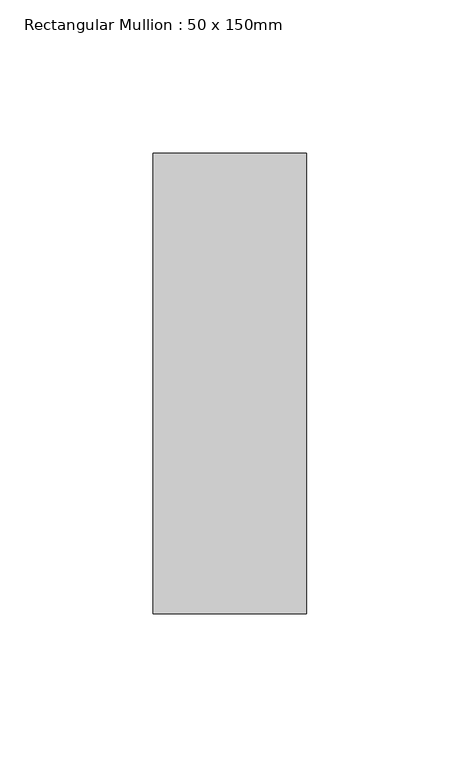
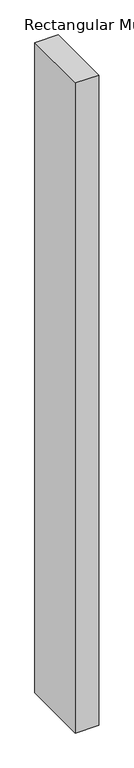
"""IFC4 building model written with IfcOpenShell, lengths in millimetres: member geometry, Rectangular Mullion : 50 x 150mm."""

import ifcopenshell
import ifcopenshell.guid

model = None  # the IFC model being written
_history = None  # IfcOwnerHistory: only IFC2X3 demands one
_inside = {}  # id of a spatial element -> (the spatial element, [elements in it])
_under = {}  # id of a project, library or spatial element -> (it, [spatial elements below it])
_declared = {}  # id of a project -> (the project, [libraries it declares])
_typed = {}  # id of a type object -> (the type object, [elements of that type])
_made_of = {}  # id of a material, layer set ... -> (it, [elements and type objects made of it])


def new_model(schema):
    """Start an empty IFC model of exactly this schema.

    Asked for "IFC4X3", IfcOpenShell would pick the latest addendum, in which some entities
    have other attributes; the version numbers below select the first issue.
    IFC2X3 requires an IfcOwnerHistory on every rooted entity: one is made here for all.
    """
    global model, _history
    if schema == "IFC4X3":
        model = ifcopenshell.file(schema_version=(4, 3, 0, 0))
    else:
        model = ifcopenshell.file(schema=schema)
    _inside.clear()
    _under.clear()
    _declared.clear()
    _typed.clear()
    _made_of.clear()
    _history = None
    if model.schema == "IFC2X3":
        org = make("IfcOrganization", Name="unknown")
        user = make(
            "IfcPersonAndOrganization",
            ThePerson=make("IfcPerson", FamilyName="unknown"),
            TheOrganization=org,
        )
        app = make(
            "IfcApplication",
            ApplicationDeveloper=org,
            Version="unknown",
            ApplicationFullName="unknown",
            ApplicationIdentifier="unknown",
        )
        _history = make(
            "IfcOwnerHistory",
            OwningUser=user,
            OwningApplication=app,
            ChangeAction="ADDED",
            CreationDate=0,
        )
    return model


def make(cls, **values):
    """One entity of the class cls with the attributes given. An attribute that is None is left unset."""
    return model.create_entity(
        cls, **{name: value for name, value in values.items() if value is not None}
    )


def rooted(cls, **values):
    """An entity with a GlobalId (a new one), such as an element, a storey or a relation."""
    return make(cls, GlobalId=ifcopenshell.guid.new(), OwnerHistory=_history, **values)


def si_unit(unit_type, name, prefix=None):
    """IfcSIUnit, for example si_unit("LENGTHUNIT", "METRE", prefix="MILLI")."""
    return make("IfcSIUnit", UnitType=unit_type, Prefix=prefix, Name=name)


def assignment(units):
    """IfcUnitAssignment: the units of a project."""
    return None if units is None else make("IfcUnitAssignment", Units=units)


def point(xyz):
    """IfcCartesianPoint."""
    return None if xyz is None else make("IfcCartesianPoint", Coordinates=xyz)


def direction(xyz):
    """IfcDirection."""
    return None if xyz is None else make("IfcDirection", DirectionRatios=xyz)


def frame(location, z_axis=None, x_axis=None):
    """IfcAxis2Placement3D, a coordinate frame: its origin and axes. An axis left out is left unset."""
    return make(
        "IfcAxis2Placement3D",
        Location=point(location),
        Axis=direction(z_axis),
        RefDirection=direction(x_axis),
    )


def origin():
    """The frame at (0, 0, 0) with its axes left unset."""
    return frame((0.0, 0.0, 0.0))


def place(relative_to, where):
    """IfcLocalPlacement: puts the frame where relative to a parent placement (None: the world)."""
    return make(
        "IfcLocalPlacement", PlacementRelTo=relative_to, RelativePlacement=where
    )


def context(
    kind, dimensions, precision=None, world=None, true_north=None, identifier=None
):
    """IfcGeometricRepresentationContext, for example the 3D "Model" context."""
    return make(
        "IfcGeometricRepresentationContext",
        ContextIdentifier=identifier,
        ContextType=kind,
        CoordinateSpaceDimension=dimensions,
        Precision=precision,
        WorldCoordinateSystem=world,
        TrueNorth=true_north,
    )


def project(units=None, contexts=None):
    """IfcProject with its units and contexts."""
    return rooted(
        "IfcProject",
        Name="project",
        RepresentationContexts=contexts,
        UnitsInContext=assignment(units),
    )


def spatial(cls, under=None, at=None, **own):
    """A site, building, storey or space (cls), placed at a placement, below another one or the project."""
    s = rooted(cls, ObjectPlacement=at, **own)
    if under is not None:
        _under.setdefault(under.id(), (under, []))[1].append(s)
    return s


def polyline(points):
    """IfcPolyline through the points."""
    return make("IfcPolyline", Points=[point(p) for p in points])


def outline(outer, holes=None, kind="AREA"):
    """IfcArbitraryClosedProfileDef: a profile drawn as a closed curve; with holes, ...WithVoids."""
    if holes is None:
        return make("IfcArbitraryClosedProfileDef", ProfileType=kind, OuterCurve=outer)
    return make(
        "IfcArbitraryProfileDefWithVoids",
        ProfileType=kind,
        OuterCurve=outer,
        InnerCurves=holes,
    )


def extrude(swept, where, along, depth):
    """IfcExtrudedAreaSolid: the profile swept, set in the frame where, extruded along a direction by depth."""
    return make(
        "IfcExtrudedAreaSolid",
        SweptArea=swept,
        Position=where,
        ExtrudedDirection=direction(along),
        Depth=depth,
    )


def shape(context_of_items, identifier, shape_type, items):
    """IfcShapeRepresentation: the items that make up one representation, for example the "Body"."""
    return make(
        "IfcShapeRepresentation",
        ContextOfItems=context_of_items,
        RepresentationIdentifier=identifier,
        RepresentationType=shape_type,
        Items=items,
    )


def source(mapping_origin, context_of_items, identifier, shape_type, items):
    """IfcRepresentationMap: a shape defined once, which mapped items show again and again."""
    return make(
        "IfcRepresentationMap",
        MappingOrigin=mapping_origin,
        MappedRepresentation=shape(context_of_items, identifier, shape_type, items),
    )


def transform(
    local_origin,
    x_axis=None,
    y_axis=None,
    z_axis=None,
    scale=None,
    scale2=None,
    scale3=None,
    uniform=True,
):
    """IfcCartesianTransformationOperator3D, or its non-uniform kind. x_axis, y_axis, z_axis: its Axis1, 2, 3."""
    if uniform:
        return make(
            "IfcCartesianTransformationOperator3D",
            Axis1=direction(x_axis),
            Axis2=direction(y_axis),
            LocalOrigin=point(local_origin),
            Scale=scale,
            Axis3=direction(z_axis),
        )
    return make(
        "IfcCartesianTransformationOperator3DnonUniform",
        Axis1=direction(x_axis),
        Axis2=direction(y_axis),
        LocalOrigin=point(local_origin),
        Scale=scale,
        Axis3=direction(z_axis),
        Scale2=scale2,
        Scale3=scale3,
    )


def mapped(mapping_source, mapping_target):
    """IfcMappedItem: shows the shape of a source again, moved by a transform."""
    return make(
        "IfcMappedItem", MappingSource=mapping_source, MappingTarget=mapping_target
    )


def made_of(thing, what):
    """Note that an element or type object is made of a material, layer set ...; save() writes the relation."""
    if what is not None:
        _made_of.setdefault(what.id(), (what, []))[1].append(thing)
    return thing


def element(
    cls,
    number,
    at=None,
    inside=None,
    cuts=None,
    type_object=None,
    material=None,
    context=None,
    identifier="Body",
    shape_type=None,
    held_by="IfcProductDefinitionShape",
    body=None,
    shapes=None,
    **own,
):
    """One element of the class cls, such as IfcWall. Its Tag is "e" and its number.

    at: its placement. inside: the storey or other place that contains it. cuts: it is an
    opening in that element (IfcRelVoidsElement). A single representation is given by context,
    identifier, shape_type and body (its items); several are given by shapes. held_by: the class
    of the entity that holds the representations. save() writes the other relations.
    """
    e = rooted(cls, Tag="e%d" % number, ObjectPlacement=at, **own)
    if body is not None:
        shapes = [shape(context, identifier, shape_type, body)]
    if shapes is not None:
        e.Representation = make(held_by, Representations=shapes)
    if inside is not None:
        _inside.setdefault(inside.id(), (inside, []))[1].append(e)
    if cuts is not None:
        rooted(
            "IfcRelVoidsElement", RelatingBuildingElement=cuts, RelatedOpeningElement=e
        )
    if type_object is not None:
        _typed.setdefault(type_object.id(), (type_object, []))[1].append(e)
    return made_of(e, material)


def aggregate(whole, parts):
    """IfcRelAggregates: a whole, such as a stair, and the parts it consists of."""
    return rooted("IfcRelAggregates", RelatingObject=whole, RelatedObjects=parts)


def save(model, path):
    """Write the relations noted so far, then the file.

    IfcRelAggregates (storeys below a building ...), IfcRelContainedInSpatialStructure (elements
    in a storey), IfcRelDefinesByType, IfcRelAssociatesMaterial and IfcRelDeclares: one each for
    every whole, place, type object, material and project.
    """
    for whole, parts in _under.values():
        aggregate(whole, parts)
    for where, things in _inside.values():
        rooted(
            "IfcRelContainedInSpatialStructure",
            RelatedElements=things,
            RelatingStructure=where,
        )
    for kind, things in _typed.values():
        rooted("IfcRelDefinesByType", RelatedObjects=things, RelatingType=kind)
    for what, things in _made_of.values():
        rooted("IfcRelAssociatesMaterial", RelatedObjects=things, RelatingMaterial=what)
    for by, libraries in _declared.values():
        rooted("IfcRelDeclares", RelatingContext=by, RelatedDefinitions=libraries)
    model.write(path)


def rectangular_mullion_50_x_150mm_f494fff1(model_context):
    return source(origin(), model_context, "Body", "SweptSolid", [
        extrude(outline(polyline([(25.0, 75.0), (25.0, -75.0), (-25.0, -75.0), (-25.0, 75.0), (25.0, 75.0)])), frame((0.0, 0.0, -1474.0), z_axis=(0.0, 0.0, 1.0), x_axis=(1.0, 0.0, 0.0)), (0.0, 0.0, 1.0), 1474.0),
    ])


if __name__ == "__main__":
    model = new_model("IFC4")
    model_context = context("Model", 3, world=origin())
    ifc_project = project(units=[si_unit("LENGTHUNIT", "METRE", prefix="MILLI")], contexts=[model_context])
    site = spatial("IfcSite", under=ifc_project)
    building = spatial("IfcBuilding", under=site)
    placement = place(None, origin())
    rectangular_mullion_50_x_150mm_shape = rectangular_mullion_50_x_150mm_f494fff1(model_context)
    element("IfcMember", 1, ObjectType="Rectangular Mullion : 50 x 150mm", at=placement, inside=building, context=model_context, shape_type="MappedRepresentation", body=[
        mapped(rectangular_mullion_50_x_150mm_shape, transform((0.0, 0.0, 0.0), x_axis=(1.0, 0.0, 0.0), y_axis=(0.0, 1.0, 0.0), z_axis=(0.0, 0.0, 1.0))),
    ])
    save(model, "model.ifc")
